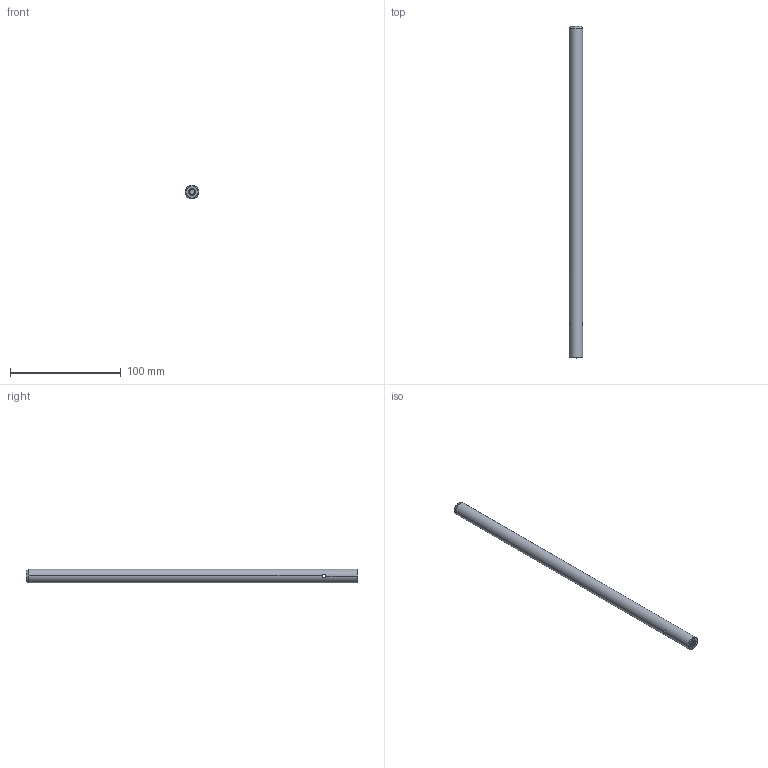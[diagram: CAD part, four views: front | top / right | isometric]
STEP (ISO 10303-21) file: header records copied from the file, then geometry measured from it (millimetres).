
FILE_DESCRIPTION((''),'2;1');
FILE_NAME('PCA30-S','2020-10-27T',('Administrator'),(''),'CREO PARAMETRIC BY PTC INC, 2015290','CREO PARAMETRIC BY PTC INC, 2015290','');
FILE_SCHEMA(('CONFIG_CONTROL_DESIGN'));
Length unit declared in the file: millimetre
Products named in the file (1): PCA30-S
Bounding box: 12 x 300 x 12 mm (x, y, z)
Volume: 33220.7 mm3; surface area: 12165.1 mm2
Topology: 1 solids, 1 shells, 101 faces, 261 edges, 162 vertices
Faces by surface type: cylinder 46, bspline 43, cone 8, plane 4
Entity records: 7990 total; most frequent: CARTESIAN_POINT 5896, ORIENTED_EDGE 522, EDGE_CURVE 261, DIRECTION 256, VERTEX_POINT 162, B_SPLINE_CURVE_WITH_KNOTS 141, EDGE_LOOP 103, FACE_OUTER_BOUND 101
